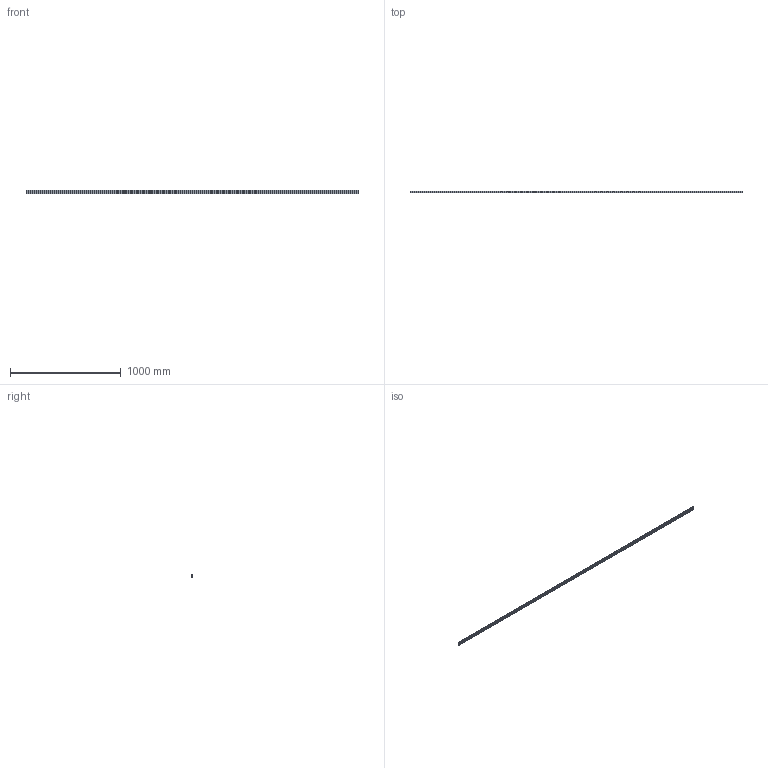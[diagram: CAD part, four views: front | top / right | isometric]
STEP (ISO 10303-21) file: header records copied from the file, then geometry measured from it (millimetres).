
FILE_DESCRIPTION (( 'STEP AP214' ), '1' );
FILE_NAME ('FABER - AT30.STEP', '2017-04-06T07:33:07', ( '' ), ( '' ), 'SwSTEP 2.0', 'SolidWorks 2016', '' );
FILE_SCHEMA (( 'AUTOMOTIVE_DESIGN' ));
Length unit declared in the file: millimetre
Products named in the file (1): FABER - AT30
Bounding box: 3000 x 13.5 x 30 mm (x, y, z)
Volume: 553892.1 mm3; surface area: 345523.2 mm2
Topology: 1 solids, 1 shells, 26 faces, 72 edges, 48 vertices
Faces by surface type: plane 18, cylinder 8
Entity records: 866 total; most frequent: CARTESIAN_POINT 147, ORIENTED_EDGE 144, DIRECTION 142, EDGE_CURVE 72, LINE 56, VECTOR 56, VERTEX_POINT 48, AXIS2_PLACEMENT_3D 43
